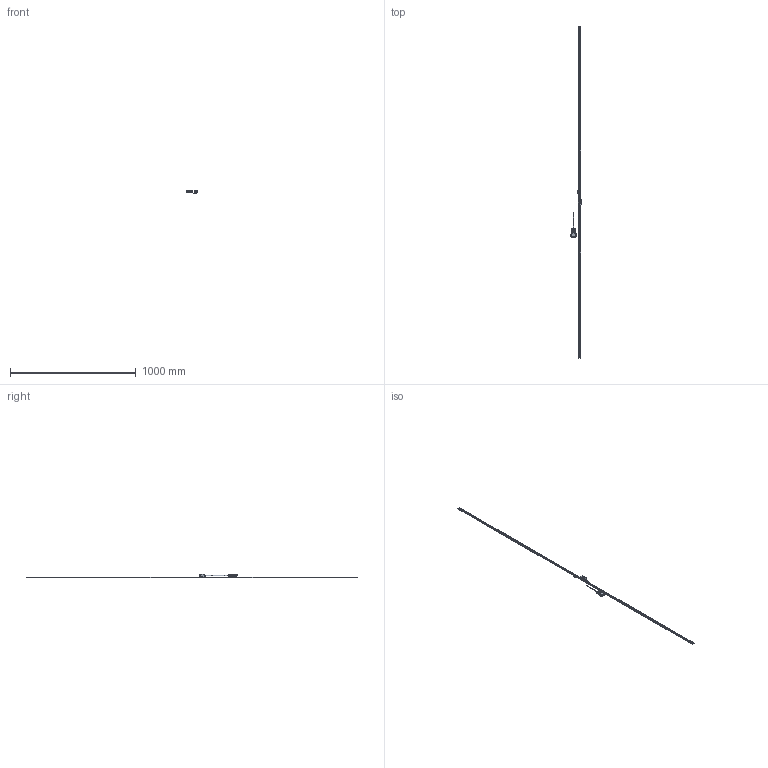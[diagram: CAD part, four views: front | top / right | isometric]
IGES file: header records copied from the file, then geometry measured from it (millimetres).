
Start section: Elysium IGES Interface
Global section: file name: 92HK:\20_商品設計\設計１課\個人\山室\05_作業中雑務\20220810_ST1300 3D HP掲載\ST1300-2600F_G.igs; native system: Creo Elements/Direct Modeling 18.1I  13-Aug-2016; preprocessor: Creo Element/Direct IGES_3D V2.2; author: Unknown; organization: Unknown; date: 20220816.112943; units: millimetre
Bounding box: 83 x 2640 x 30.1 mm (x, y, z)
Volume: 237572.6 mm3; surface area: 139161 mm2
Topology: 3 solids, 6 shells, 3904 faces, 10646 edges, 6910 vertices
Faces by surface type: bspline 3904
